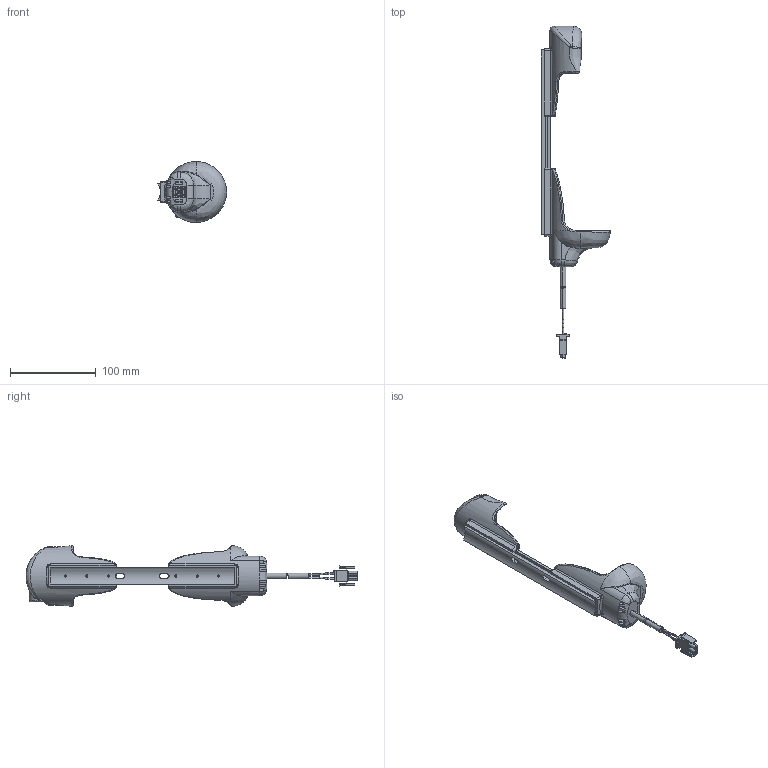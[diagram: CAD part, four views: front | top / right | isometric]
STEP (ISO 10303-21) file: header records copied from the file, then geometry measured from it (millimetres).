
FILE_DESCRIPTION (( 'STEP AP214' ), '1' );
FILE_NAME ('PowerPack Holder.STEP', '2024-10-21T10:21:44', ( '' ), ( '' ), 'SwSTEP 2.0', 'SolidWorks 2021', '' );
FILE_SCHEMA (( 'AUTOMOTIVE_DESIGN' ));
Length unit declared in the file: millimetre
Products named in the file (6): Kopie von 07516004^EZ03432; PowerPack Holder; Kopie von Cable^EZ03432; Kopie von a_KS430OUTAL_1^EZ03432; Kopie von a_holding tray (top side) for battery 07516003 - Kopie^EZ03432; Kopie von AMP_Mate-N-Lok_350777-4^EZ03432
Assembly tree (5 placements, depth 2):
  PowerPack Holder
    Kopie von a_KS430OUTAL_1^EZ03432
    Kopie von a_holding tray (top side) for battery 07516003 - Kopie^EZ03432
    Kopie von Cable^EZ03432
    Kopie von AMP_Mate-N-Lok_350777-4^EZ03432
    Kopie von 07516004^EZ03432
Bounding box: 80.58 x 387.07 x 70.91 mm (x, y, z)
Volume: 106243.4 mm3; surface area: 72039.9 mm2
Topology: 7 solids, 8 shells, 501 faces, 1299 edges, 817 vertices
Faces by surface type: plane 278, cylinder 120, bspline 97, cone 6
Entity records: 31351 total; most frequent: CARTESIAN_POINT 14211, ORIENTED_EDGE 2574, DIRECTION 2012, EDGE_CURVE 1289, VERTEX_POINT 816, VECTOR 774, LINE 774, AXIS2_PLACEMENT_3D 619
